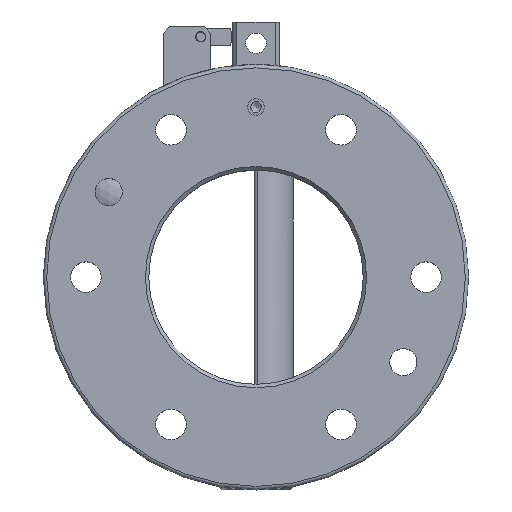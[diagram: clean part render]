
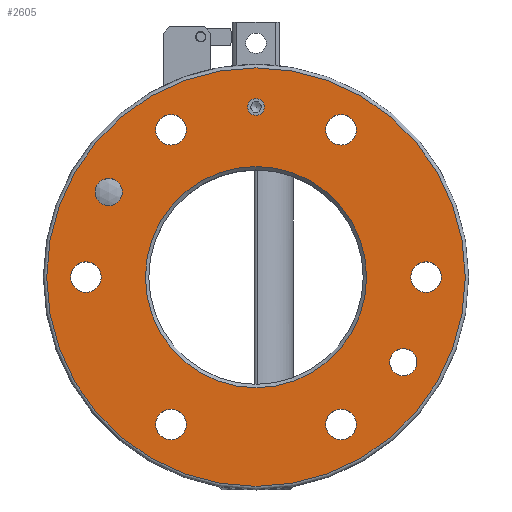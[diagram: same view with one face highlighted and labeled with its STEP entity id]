
A CAD part, top view. The second image highlights one B-rep face of the part: STEP entity #2605.
In plain terms, the highlighted planar face has unit normal (0, 0, 1).
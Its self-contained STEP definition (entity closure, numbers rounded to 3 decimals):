
#416=PLANE('',#2863);
#651=FACE_BOUND('',#1025,.T.);
#652=FACE_BOUND('',#1026,.T.);
#653=FACE_BOUND('',#1027,.T.);
#654=FACE_BOUND('',#1028,.T.);
#655=FACE_BOUND('',#1029,.T.);
#656=FACE_BOUND('',#1030,.T.);
#657=FACE_BOUND('',#1031,.T.);
#658=FACE_BOUND('',#1032,.T.);
#659=FACE_BOUND('',#1033,.T.);
#660=FACE_BOUND('',#1034,.T.);
#808=FACE_OUTER_BOUND('',#1024,.T.);
#1024=EDGE_LOOP('',(#2237));
#1025=EDGE_LOOP('',(#2238));
#1026=EDGE_LOOP('',(#2239));
#1027=EDGE_LOOP('',(#2240));
#1028=EDGE_LOOP('',(#2241));
#1029=EDGE_LOOP('',(#2242));
#1030=EDGE_LOOP('',(#2243));
#1031=EDGE_LOOP('',(#2244));
#1032=EDGE_LOOP('',(#2245));
#1033=EDGE_LOOP('',(#2246));
#1034=EDGE_LOOP('',(#2247));
#1184=CIRCLE('',#2771,2.459);
#1233=CIRCLE('',#2862,61.5);
#1234=CIRCLE('',#2864,32.5);
#1235=CIRCLE('',#2865,4.5);
#1236=CIRCLE('',#2866,4.5);
#1237=CIRCLE('',#2867,4.5);
#1238=CIRCLE('',#2868,4.5);
#1239=CIRCLE('',#2869,4.5);
#1240=CIRCLE('',#2870,4.5);
#1241=CIRCLE('',#2871,4.);
#1242=CIRCLE('',#2872,4.);
#1367=VERTEX_POINT('',#4072);
#1436=VERTEX_POINT('',#4580);
#1437=VERTEX_POINT('',#4583);
#1438=VERTEX_POINT('',#4585);
#1439=VERTEX_POINT('',#4587);
#1440=VERTEX_POINT('',#4589);
#1441=VERTEX_POINT('',#4591);
#1442=VERTEX_POINT('',#4593);
#1443=VERTEX_POINT('',#4595);
#1444=VERTEX_POINT('',#4597);
#1445=VERTEX_POINT('',#4599);
#1632=EDGE_CURVE('',#1367,#1367,#1184,.T.);
#1733=EDGE_CURVE('',#1436,#1436,#1233,.T.);
#1734=EDGE_CURVE('',#1437,#1437,#1234,.T.);
#1735=EDGE_CURVE('',#1438,#1438,#1235,.T.);
#1736=EDGE_CURVE('',#1439,#1439,#1236,.T.);
#1737=EDGE_CURVE('',#1440,#1440,#1237,.T.);
#1738=EDGE_CURVE('',#1441,#1441,#1238,.T.);
#1739=EDGE_CURVE('',#1442,#1442,#1239,.T.);
#1740=EDGE_CURVE('',#1443,#1443,#1240,.T.);
#1741=EDGE_CURVE('',#1444,#1444,#1241,.T.);
#1742=EDGE_CURVE('',#1445,#1445,#1242,.T.);
#2237=ORIENTED_EDGE('',*,*,#1733,.F.);
#2238=ORIENTED_EDGE('',*,*,#1734,.F.);
#2239=ORIENTED_EDGE('',*,*,#1735,.T.);
#2240=ORIENTED_EDGE('',*,*,#1736,.T.);
#2241=ORIENTED_EDGE('',*,*,#1737,.T.);
#2242=ORIENTED_EDGE('',*,*,#1738,.T.);
#2243=ORIENTED_EDGE('',*,*,#1739,.T.);
#2244=ORIENTED_EDGE('',*,*,#1740,.T.);
#2245=ORIENTED_EDGE('',*,*,#1632,.T.);
#2246=ORIENTED_EDGE('',*,*,#1741,.T.);
#2247=ORIENTED_EDGE('',*,*,#1742,.T.);
#2605=ADVANCED_FACE('',(#808,#651,#652,#653,#654,#655,#656,#657,#658,#659,
#660),#416,.F.);
#2771=AXIS2_PLACEMENT_3D('',#4073,#3228,#3229);
#2862=AXIS2_PLACEMENT_3D('',#4581,#3442,#3443);
#2863=AXIS2_PLACEMENT_3D('',#4582,#3444,#3445);
#2864=AXIS2_PLACEMENT_3D('',#4584,#3446,#3447);
#2865=AXIS2_PLACEMENT_3D('',#4586,#3448,#3449);
#2866=AXIS2_PLACEMENT_3D('',#4588,#3450,#3451);
#2867=AXIS2_PLACEMENT_3D('',#4590,#3452,#3453);
#2868=AXIS2_PLACEMENT_3D('',#4592,#3454,#3455);
#2869=AXIS2_PLACEMENT_3D('',#4594,#3456,#3457);
#2870=AXIS2_PLACEMENT_3D('',#4596,#3458,#3459);
#2871=AXIS2_PLACEMENT_3D('',#4598,#3460,#3461);
#2872=AXIS2_PLACEMENT_3D('',#4600,#3462,#3463);
#3228=DIRECTION('center_axis',(0.,0.,-1.));
#3229=DIRECTION('ref_axis',(1.,0.,0.));
#3442=DIRECTION('center_axis',(0.,0.,-1.));
#3443=DIRECTION('ref_axis',(-1.,0.,0.));
#3444=DIRECTION('center_axis',(0.,0.,-1.));
#3445=DIRECTION('ref_axis',(-1.,0.,0.));
#3446=DIRECTION('center_axis',(0.,0.,1.));
#3447=DIRECTION('ref_axis',(-1.,0.,0.));
#3448=DIRECTION('center_axis',(0.,0.,-1.));
#3449=DIRECTION('ref_axis',(-1.,0.,0.));
#3450=DIRECTION('center_axis',(0.,0.,-1.));
#3451=DIRECTION('ref_axis',(-1.,0.,0.));
#3452=DIRECTION('center_axis',(0.,0.,-1.));
#3453=DIRECTION('ref_axis',(-1.,0.,0.));
#3454=DIRECTION('center_axis',(0.,0.,-1.));
#3455=DIRECTION('ref_axis',(-1.,0.,0.));
#3456=DIRECTION('center_axis',(0.,0.,-1.));
#3457=DIRECTION('ref_axis',(-1.,0.,0.));
#3458=DIRECTION('center_axis',(0.,0.,-1.));
#3459=DIRECTION('ref_axis',(-1.,0.,0.));
#3460=DIRECTION('center_axis',(0.,0.,-1.));
#3461=DIRECTION('ref_axis',(1.,0.,0.));
#3462=DIRECTION('center_axis',(0.,0.,-1.));
#3463=DIRECTION('ref_axis',(1.,0.,0.));
#4072=CARTESIAN_POINT('',(2.459,50.,0.));
#4073=CARTESIAN_POINT('Origin',(0.,50.,0.));
#4580=CARTESIAN_POINT('',(61.5,0.,0.));
#4581=CARTESIAN_POINT('Origin',(0.,0.,0.));
#4582=CARTESIAN_POINT('Origin',(0.,0.,0.));
#4583=CARTESIAN_POINT('',(32.5,0.,0.));
#4584=CARTESIAN_POINT('Origin',(0.,0.,0.));
#4585=CARTESIAN_POINT('',(-20.5,-43.301,0.));
#4586=CARTESIAN_POINT('Origin',(-25.,-43.301,0.));
#4587=CARTESIAN_POINT('',(29.5,-43.301,0.));
#4588=CARTESIAN_POINT('Origin',(25.,-43.301,0.));
#4589=CARTESIAN_POINT('',(54.5,0.,0.));
#4590=CARTESIAN_POINT('Origin',(50.,0.,0.));
#4591=CARTESIAN_POINT('',(29.5,43.301,0.));
#4592=CARTESIAN_POINT('Origin',(25.,43.301,0.));
#4593=CARTESIAN_POINT('',(-20.5,43.301,0.));
#4594=CARTESIAN_POINT('Origin',(-25.,43.301,0.));
#4595=CARTESIAN_POINT('',(-45.5,0.,0.));
#4596=CARTESIAN_POINT('Origin',(-50.,0.,0.));
#4597=CARTESIAN_POINT('',(-39.301,25.,0.));
#4598=CARTESIAN_POINT('Origin',(-43.301,25.,0.));
#4599=CARTESIAN_POINT('',(47.301,-25.,0.));
#4600=CARTESIAN_POINT('Origin',(43.301,-25.,0.));
